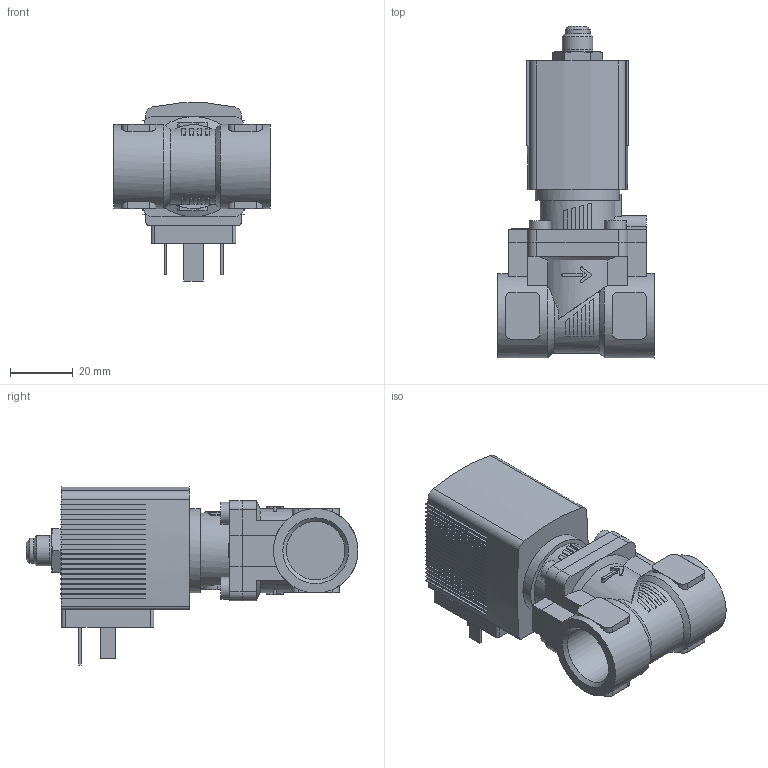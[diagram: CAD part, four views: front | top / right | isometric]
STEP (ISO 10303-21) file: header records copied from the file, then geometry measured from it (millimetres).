
FILE_DESCRIPTION(/* description */ ('STEP AP214'),/* implementation_level */ '2;1');
FILE_NAME(/* name */ '6281-331007-2_2-Way_Solenoid_Valve__Servo-assisted__General_Purpose',/* time_stamp */ '2024-05-17T21:49:50+02:00',/* author */ ('License CC BY-ND 4.0'),/* organization */ ('CADENAS'),/* preprocessor_version */ 'ST-DEVELOPER v19.3',/* originating_system */ 'PARTsolutions',/* authorisation */ ' ');
FILE_SCHEMA (('AUTOMOTIVE_DESIGN {1 0 10303 214 3 1 1}'));
Length unit declared in the file: millimetre
Products named in the file (4): 6281-331007-2/2-Way Solenoid Valve, Servo-assisted, General Purpose; 5281ev100MS2/2-Wege-Magnetventil mit Servomembran-Deckel   ; 6213-10G1/2MS-Gehaeuse-; AC10ex-5OO-Gewinde-Coil
Assembly tree (3 placements, depth 2):
  6281-331007-2/2-Way Solenoid Valve, Servo-assisted, General Purpose
    5281ev100MS2/2-Wege-Magnetventil mit Servomembran-Deckel   
    6213-10G1/2MS-Gehaeuse-
    AC10ex-5OO-Gewinde-Coil
Bounding box: 50 x 106 x 56.84 mm (x, y, z)
Volume: 95523.4 mm3; surface area: 24949.3 mm2
Topology: 3 solids, 3 shells, 526 faces, 1450 edges, 961 vertices
Faces by surface type: plane 427, cylinder 84, cone 15
Full cylindrical faces by diameter (mm): 2.013 x1, 2.7 x1, 7 x4, 8 x1, 9.73 x1, 9.74 x1, 18.631 x2, 27 x3
Entity records: 19256 total; most frequent: CARTESIAN_POINT 3123, ORIENTED_EDGE 2840, DIRECTION 2736, EDGE_CURVE 1420, LINE 1050, VECTOR 1050, VERTEX_POINT 951, AXIS2_PLACEMENT_3D 843
